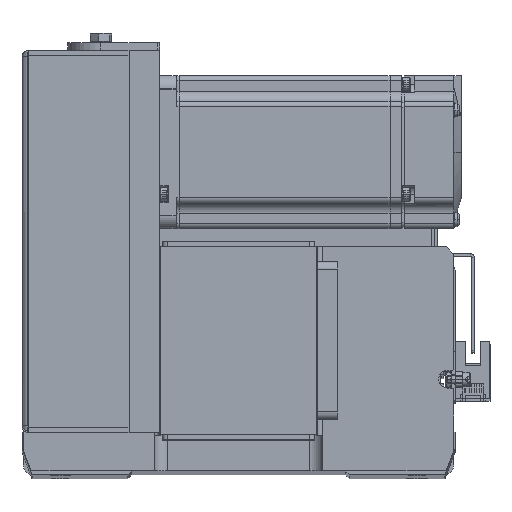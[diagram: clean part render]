
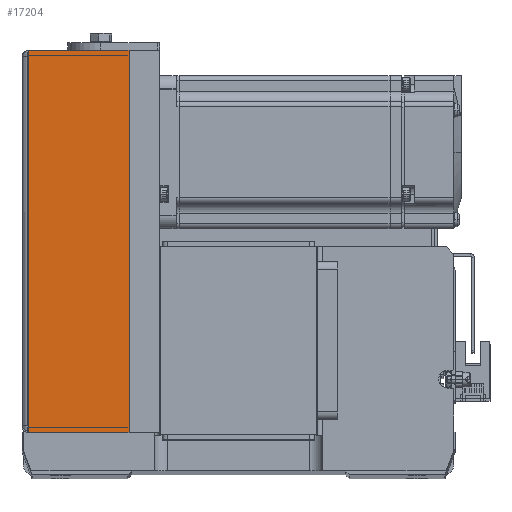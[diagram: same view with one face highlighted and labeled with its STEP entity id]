
A CAD part, top view. The second image highlights one B-rep face of the part: STEP entity #17204.
In plain terms, the highlighted planar face has unit normal (0, 0, 1) as drawn and (0, 1, 0) by its records, which use the part's own axes.
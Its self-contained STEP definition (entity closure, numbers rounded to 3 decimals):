
#1149 = CARTESIAN_POINT ( 'NONE',  ( -75., 36., 12. ) ) ;
#2678 = ORIENTED_EDGE ( 'NONE', *, *, #21152, .F. ) ;
#2814 = DIRECTION ( 'NONE',  ( 0., -1., 0. ) ) ;
#4662 = EDGE_CURVE ( 'NONE', #37322, #29542, #35343, .T. ) ;
#6249 = CARTESIAN_POINT ( 'NONE',  ( 0., 36., 52. ) ) ;
#6701 = LINE ( 'NONE', #19037, #15940 ) ;
#7991 = AXIS2_PLACEMENT_3D ( 'NONE', #6249, #2814, #27838 ) ;
#12085 = PLANE ( 'NONE',  #7991 ) ;
#12096 = CARTESIAN_POINT ( 'NONE',  ( 75., 36., 12. ) ) ;
#13795 = VERTEX_POINT ( 'NONE', #12096 ) ;
#14647 = ORIENTED_EDGE ( 'NONE', *, *, #33729, .T. ) ;
#15940 = VECTOR ( 'NONE', #28495, 1000. ) ;
#16553 = EDGE_CURVE ( 'NONE', #37322, #13795, #30027, .T. ) ;
#16991 = DIRECTION ( 'NONE',  ( -1., 0., 0. ) ) ;
#17204 = ADVANCED_FACE ( 'NONE', ( #33896 ), #12085, .F. ) ;
#17875 = VERTEX_POINT ( 'NONE', #1149 ) ;
#18268 = VECTOR ( 'NONE', #27001, 1000. ) ;
#19037 = CARTESIAN_POINT ( 'NONE',  ( -75., 36., 51.5 ) ) ;
#21152 = EDGE_CURVE ( 'NONE', #29542, #17875, #6701, .T. ) ;
#23915 = ORIENTED_EDGE ( 'NONE', *, *, #4662, .F. ) ;
#25079 = EDGE_LOOP ( 'NONE', ( #23915, #34229, #14647, #2678 ) ) ;
#26810 = CARTESIAN_POINT ( 'NONE',  ( 75., 36., 51.5 ) ) ;
#27001 = DIRECTION ( 'NONE',  ( 0., 0., -1. ) ) ;
#27838 = DIRECTION ( 'NONE',  ( 0., 0., 1. ) ) ;
#28495 = DIRECTION ( 'NONE',  ( 0., 0., -1. ) ) ;
#29162 = CARTESIAN_POINT ( 'NONE',  ( 0., 36., 12. ) ) ;
#29542 = VERTEX_POINT ( 'NONE', #38032 ) ;
#30027 = LINE ( 'NONE', #26810, #18268 ) ;
#31816 = LINE ( 'NONE', #29162, #33217 ) ;
#32342 = CARTESIAN_POINT ( 'NONE',  ( -75., 36., 51.5 ) ) ;
#33217 = VECTOR ( 'NONE', #37640, 1000. ) ;
#33729 = EDGE_CURVE ( 'NONE', #13795, #17875, #31816, .T. ) ;
#33896 = FACE_OUTER_BOUND ( 'NONE', #25079, .T. ) ;
#34229 = ORIENTED_EDGE ( 'NONE', *, *, #16553, .T. ) ;
#34944 = CARTESIAN_POINT ( 'NONE',  ( 75., 36., 51.5 ) ) ;
#35343 = LINE ( 'NONE', #32342, #37368 ) ;
#37322 = VERTEX_POINT ( 'NONE', #34944 ) ;
#37368 = VECTOR ( 'NONE', #16991, 1000. ) ;
#37640 = DIRECTION ( 'NONE',  ( -1., 0., 0. ) ) ;
#38032 = CARTESIAN_POINT ( 'NONE',  ( -75., 36., 51.5 ) ) ;
